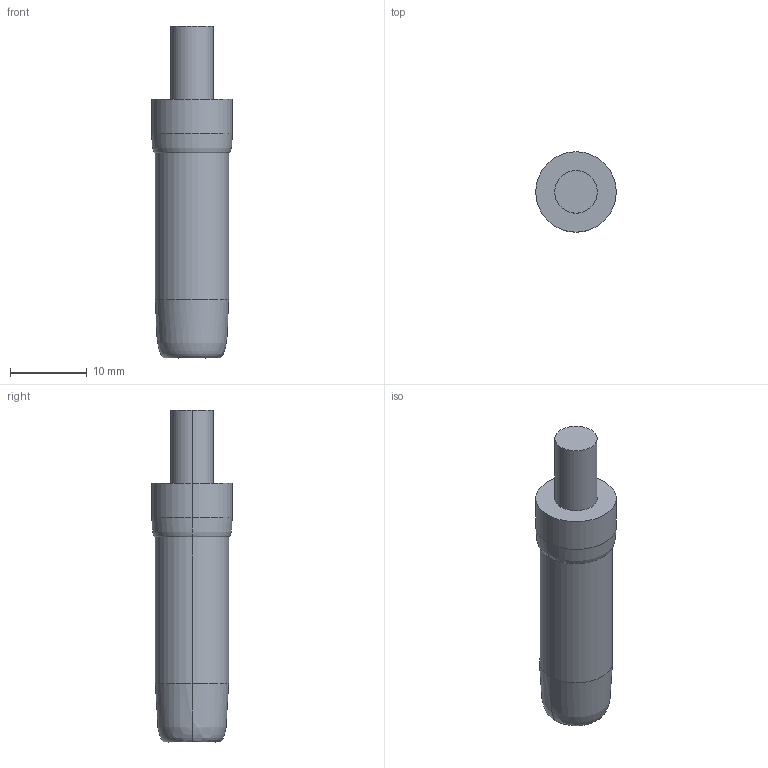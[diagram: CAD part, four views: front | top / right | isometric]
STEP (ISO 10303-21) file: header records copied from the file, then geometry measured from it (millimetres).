
FILE_DESCRIPTION((''),'2;1');
FILE_NAME('CU_CDAQ_POWERPLUG','2007-08-29T',('jpearson'),(''),'PRO/ENGINEER BY PARAMETRIC TECHNOLOGY CORPORATION, 2006080','PRO/ENGINEER BY PARAMETRIC TECHNOLOGY CORPORATION, 2006080','');
FILE_SCHEMA(('CONFIG_CONTROL_DESIGN'));
Length unit declared in the file: inch
Products named in the file (1): CU_CDAQ_POWERPLUG
Bounding box: 10.46 x 10.46 x 43.18 mm (x, y, z)
Volume: 1863.3 mm3; surface area: 1844.7 mm2
Topology: 1 solids, 1 shells, 20 faces, 38 edges, 24 vertices
Faces by surface type: cylinder 10, plane 6, bspline 4
Entity records: 870 total; most frequent: CARTESIAN_POINT 434, DIRECTION 82, ORIENTED_EDGE 76, EDGE_CURVE 38, AXIS2_PLACEMENT_3D 36, VERTEX_POINT 24, EDGE_LOOP 24, FACE_OUTER_BOUND 20
